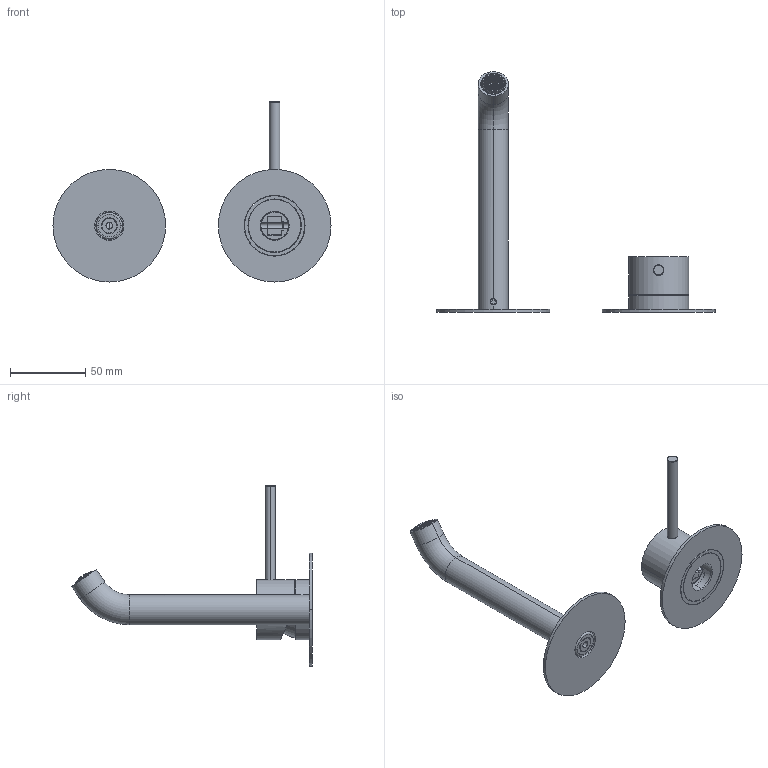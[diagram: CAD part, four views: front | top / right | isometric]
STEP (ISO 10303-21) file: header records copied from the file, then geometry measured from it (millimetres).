
FILE_DESCRIPTION((''),'2;1');
FILE_NAME('69537B21_SW0001','2024-10-21T16:54:08',('carloff'),(''),'CREO PARAMETRIC BY PTC INC, 2022014','CREO PARAMETRIC BY PTC INC, 2022014','');
FILE_SCHEMA(('CONFIG_CONTROL_DESIGN'));
Products named in the file (1): 69537B21_SW0001
Bounding box: 185 x 160.19 x 119.9 mm (x, y, z)
Volume: 84215.4 mm3; surface area: 67077.2 mm2
Topology: 4 solids, 4 shells, 2967 faces, 8786 edges, 5875 vertices
Faces by surface type: plane 1932, torus 435, cylinder 389, bspline 126, cone 67, sphere 15, extrusion 3
Entity records: 129078 total; most frequent: CARTESIAN_POINT 54844, ORIENTED_EDGE 17544, DIRECTION 12610, EDGE_CURVE 8772, VERTEX_POINT 5875, AXIS2_PLACEMENT_3D 4570, B_SPLINE_CURVE_WITH_KNOTS 3576, VECTOR 3470
